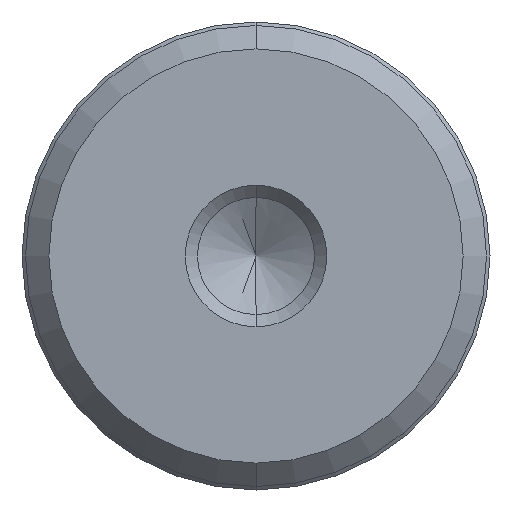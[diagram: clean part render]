
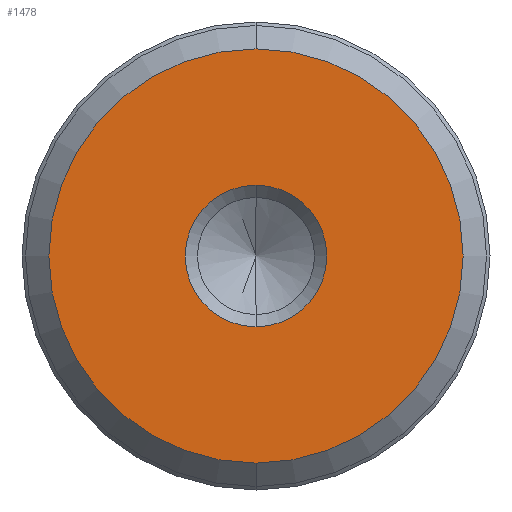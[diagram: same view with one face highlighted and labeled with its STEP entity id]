
A CAD part, front view. The second image highlights one B-rep face of the part: STEP entity #1478.
In plain terms, the highlighted planar face has unit normal (0, -1, 0).
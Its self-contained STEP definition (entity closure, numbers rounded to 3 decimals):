
#5 = VERTEX_POINT ( 'NONE', #644 ) ;
#9 = AXIS2_PLACEMENT_3D ( 'NONE', #123, #255, #1149 ) ;
#52 = CARTESIAN_POINT ( 'NONE',  ( 0., -16., -8.85 ) ) ;
#82 = VERTEX_POINT ( 'NONE', #52 ) ;
#89 = DIRECTION ( 'NONE',  ( 0., -1., 0. ) ) ;
#123 = CARTESIAN_POINT ( 'NONE',  ( 0., -16., 0. ) ) ;
#207 = DIRECTION ( 'NONE',  ( 0., 1., 0. ) ) ;
#255 = DIRECTION ( 'NONE',  ( 0., 1., 0. ) ) ;
#332 = CIRCLE ( 'NONE', #1365, 3.025 ) ;
#355 = AXIS2_PLACEMENT_3D ( 'NONE', #860, #89, #992 ) ;
#361 = EDGE_CURVE ( 'NONE', #663, #82, #1480, .T. ) ;
#374 = CARTESIAN_POINT ( 'NONE',  ( 0., -16., 0. ) ) ;
#391 = CARTESIAN_POINT ( 'NONE',  ( 0., -16., 0. ) ) ;
#487 = EDGE_CURVE ( 'NONE', #5, #1203, #332, .T. ) ;
#496 = FACE_BOUND ( 'NONE', #1247, .T. ) ;
#510 = CIRCLE ( 'NONE', #355, 3.025 ) ;
#517 = DIRECTION ( 'NONE',  ( 0., 0., 1. ) ) ;
#555 = ORIENTED_EDGE ( 'NONE', *, *, #922, .F. ) ;
#589 = DIRECTION ( 'NONE',  ( 0., -1., 0. ) ) ;
#644 = CARTESIAN_POINT ( 'NONE',  ( 0., -16., 3.025 ) ) ;
#648 = CARTESIAN_POINT ( 'NONE',  ( 0., -16., 8.85 ) ) ;
#662 = EDGE_CURVE ( 'NONE', #82, #663, #1264, .T. ) ;
#663 = VERTEX_POINT ( 'NONE', #648 ) ;
#860 = CARTESIAN_POINT ( 'NONE',  ( 0., -16., 0. ) ) ;
#900 = PLANE ( 'NONE',  #9 ) ;
#922 = EDGE_CURVE ( 'NONE', #1203, #5, #510, .T. ) ;
#992 = DIRECTION ( 'NONE',  ( 0., 0., -1. ) ) ;
#1038 = AXIS2_PLACEMENT_3D ( 'NONE', #374, #207, #1106 ) ;
#1080 = ORIENTED_EDGE ( 'NONE', *, *, #361, .F. ) ;
#1106 = DIRECTION ( 'NONE',  ( 0., 0., 1. ) ) ;
#1149 = DIRECTION ( 'NONE',  ( 0., 0., 1. ) ) ;
#1150 = AXIS2_PLACEMENT_3D ( 'NONE', #391, #1273, #517 ) ;
#1203 = VERTEX_POINT ( 'NONE', #1375 ) ;
#1209 = FACE_OUTER_BOUND ( 'NONE', #1331, .T. ) ;
#1247 = EDGE_LOOP ( 'NONE', ( #555, #1419 ) ) ;
#1264 = CIRCLE ( 'NONE', #1150, 8.85 ) ;
#1273 = DIRECTION ( 'NONE',  ( 0., 1., 0. ) ) ;
#1331 = EDGE_LOOP ( 'NONE', ( #1080, #1583 ) ) ;
#1339 = CARTESIAN_POINT ( 'NONE',  ( 0., -16., 0. ) ) ;
#1365 = AXIS2_PLACEMENT_3D ( 'NONE', #1339, #589, #1454 ) ;
#1375 = CARTESIAN_POINT ( 'NONE',  ( 0., -16., -3.025 ) ) ;
#1419 = ORIENTED_EDGE ( 'NONE', *, *, #487, .F. ) ;
#1454 = DIRECTION ( 'NONE',  ( 0., 0., -1. ) ) ;
#1478 = ADVANCED_FACE ( 'NONE', ( #496, #1209 ), #900, .F. ) ;
#1480 = CIRCLE ( 'NONE', #1038, 8.85 ) ;
#1583 = ORIENTED_EDGE ( 'NONE', *, *, #662, .F. ) ;
